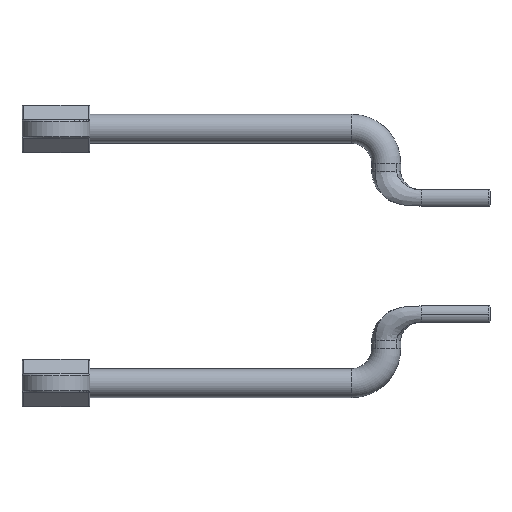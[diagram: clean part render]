
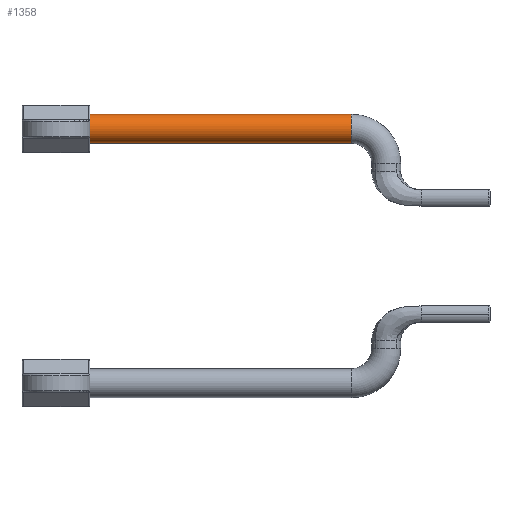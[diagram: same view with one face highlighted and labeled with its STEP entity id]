
A CAD part, left-side view. The second image highlights one B-rep face of the part: STEP entity #1358.
In plain terms, the highlighted cylindrical face has radius 6.35 mm (diameter 12.7 mm), a partial arc.
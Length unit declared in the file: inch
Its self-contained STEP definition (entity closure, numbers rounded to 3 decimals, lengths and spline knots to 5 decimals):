
#600=CARTESIAN_POINT('',(8.595,1.19,0.));
#601=DIRECTION('',(1.,0.,0.));
#602=DIRECTION('',(0.,-1.,0.));
#603=AXIS2_PLACEMENT_3D('',#600,#601,#602);
#629=DIRECTION('',(-1.,0.,0.));
#630=VECTOR('',#629,5.62);
#631=CARTESIAN_POINT('',(8.595,1.44,0.));
#632=LINE('',#631,#630);
#678=CARTESIAN_POINT('',(2.975,1.19,0.));
#679=DIRECTION('',(-1.,0.,0.));
#680=DIRECTION('',(0.,1.,0.));
#681=AXIS2_PLACEMENT_3D('',#678,#679,#680);
#804=DIRECTION('',(-1.,0.,0.));
#805=VECTOR('',#804,5.62);
#806=CARTESIAN_POINT('',(8.595,0.94,0.));
#807=LINE('',#806,#805);
#818=CARTESIAN_POINT('',(8.595,0.94,0.));
#820=VERTEX_POINT('',#818);
#827=CARTESIAN_POINT('',(2.975,1.44,0.));
#828=CARTESIAN_POINT('',(2.975,0.94,0.));
#829=VERTEX_POINT('',#827);
#830=VERTEX_POINT('',#828);
#833=CARTESIAN_POINT('',(8.595,1.44,0.));
#834=VERTEX_POINT('',#833);
#1347=CARTESIAN_POINT('',(2.975,1.19,0.));
#1348=DIRECTION('',(1.,0.,0.));
#1349=DIRECTION('',(0.,1.,0.));
#1350=AXIS2_PLACEMENT_3D('',#1347,#1348,#1349);
#1351=CYLINDRICAL_SURFACE('',#1350,0.25);
#1352=ORIENTED_EDGE('',*,*,#904,.F.);
#1353=ORIENTED_EDGE('',*,*,#858,.T.);
#1354=ORIENTED_EDGE('',*,*,#901,.T.);
#1355=ORIENTED_EDGE('',*,*,#941,.T.);
#1356=EDGE_LOOP('',(#1352,#1353,#1354,#1355));
#1357=FACE_OUTER_BOUND('',#1356,.F.);
#604=CIRCLE('',#603,0.25);
#682=CIRCLE('',#681,0.25);
#858=EDGE_CURVE('',#820,#834,#604,.T.);
#901=EDGE_CURVE('',#834,#829,#632,.T.);
#904=EDGE_CURVE('',#820,#830,#807,.T.);
#941=EDGE_CURVE('',#829,#830,#682,.T.);
#1358=ADVANCED_FACE('',(#1357),#1351,.T.);
